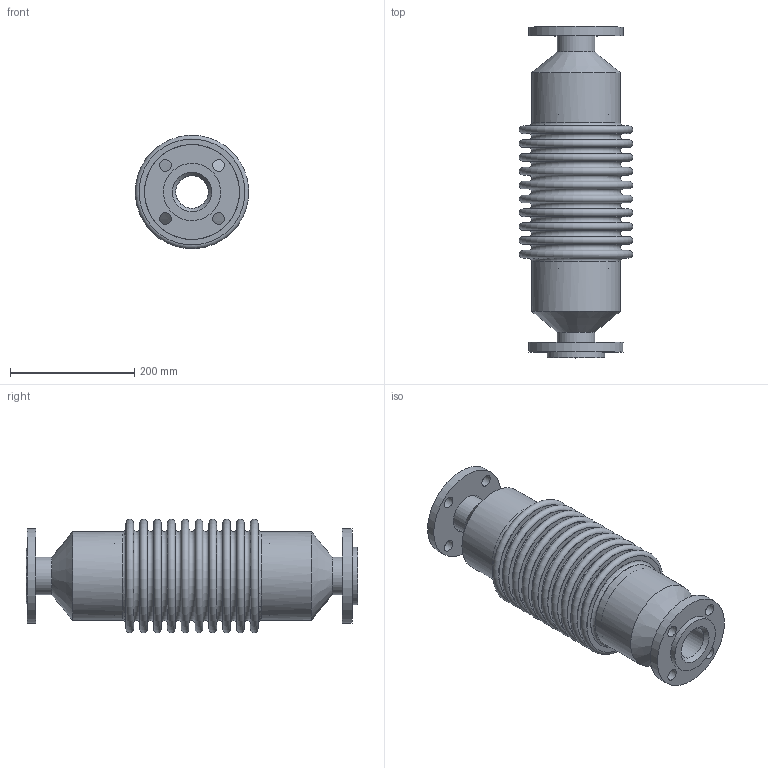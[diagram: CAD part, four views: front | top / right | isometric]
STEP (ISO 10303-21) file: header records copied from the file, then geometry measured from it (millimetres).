
FILE_DESCRIPTION(/* description */ (''),/* implementation_level */ '2;1');
FILE_NAME(/* name */ 'C:\001_Work\Designs\EFL250-ASA150LB\EFL250-2x21(ASA150LB).stp',/* time_stamp */ '2016-05-15T21:33:13-04:00',/* author */ ('rramoutar'),/* organization */ ('Mason Industries Inc.'),/* preprocessor_version */ 'ST-DEVELOPER v15.6',/* originating_system */ 'Autodesk Inventor 2015',/* authorisation */ '');
FILE_SCHEMA (('CONFIG_CONTROL_DESIGN'));
Length unit declared in the file: inch
Products named in the file (1): EFL250-2x21-ASA150LB
Bounding box: 182.31 x 533.4 x 182.31 mm (x, y, z)
Volume: 1104131.6 mm3; surface area: 857893.1 mm2
Topology: 1 solids, 1 shells, 125 faces, 223 edges, 149 vertices
Faces by surface type: plane 51, torus 42, cylinder 24, cone 8
Full cylindrical faces by diameter (mm): 19.05 x8, 52.502 x2, 60.325 x2, 63.5 x3, 92.075 x1, 135.052 x2, 140.843 x2, 142.875 x2, 152.4 x2
Entity records: 2785 total; most frequent: DIRECTION 518, CARTESIAN_POINT 392, EDGE_LOOP 266, ORIENTED_EDGE 266, AXIS2_PLACEMENT_3D 259, FACE_BOUND 141, CIRCLE 133, VERTEX_POINT 133
